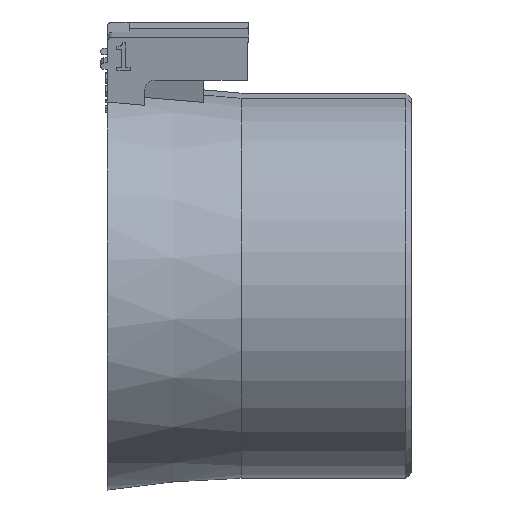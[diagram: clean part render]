
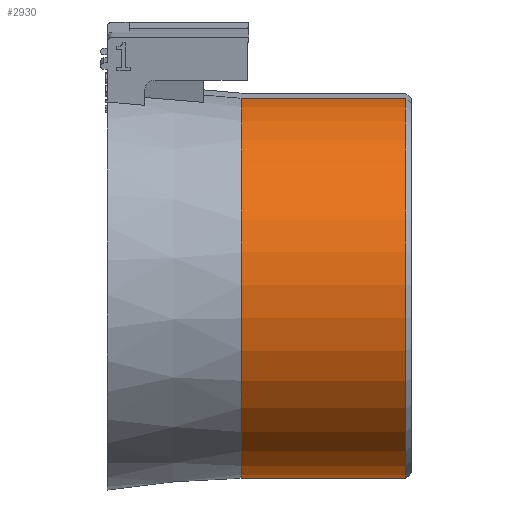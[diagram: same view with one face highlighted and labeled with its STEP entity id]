
A CAD part, front view. The second image highlights one B-rep face of the part: STEP entity #2930.
In plain terms, the highlighted cylindrical face has radius 17.5 mm (diameter 35 mm), a partial arc.
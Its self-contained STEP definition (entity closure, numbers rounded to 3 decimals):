
#49=CYLINDRICAL_SURFACE('',#3102,17.5);
#85=CIRCLE('',#3103,17.5);
#86=CIRCLE('',#3104,17.5);
#378=FACE_OUTER_BOUND('',#546,.T.);
#546=EDGE_LOOP('',(#2542,#2543,#2544,#2545));
#806=LINE('',#4965,#1088);
#825=LINE('',#5007,#1107);
#1088=VECTOR('',#3600,10.);
#1107=VECTOR('',#3629,10.);
#1454=VERTEX_POINT('',#4962);
#1455=VERTEX_POINT('',#4964);
#1472=VERTEX_POINT('',#5005);
#1473=VERTEX_POINT('',#5006);
#1832=EDGE_CURVE('',#1455,#1454,#806,.T.);
#1853=EDGE_CURVE('',#1472,#1473,#825,.T.);
#1854=EDGE_CURVE('',#1455,#1472,#85,.T.);
#1855=EDGE_CURVE('',#1473,#1454,#86,.T.);
#2542=ORIENTED_EDGE('',*,*,#1853,.F.);
#2543=ORIENTED_EDGE('',*,*,#1854,.F.);
#2544=ORIENTED_EDGE('',*,*,#1832,.T.);
#2545=ORIENTED_EDGE('',*,*,#1855,.F.);
#2930=ADVANCED_FACE('',(#378),#49,.T.);
#3102=AXIS2_PLACEMENT_3D('',#5004,#3627,#3628);
#3103=AXIS2_PLACEMENT_3D('',#5008,#3630,#3631);
#3104=AXIS2_PLACEMENT_3D('',#5009,#3632,#3633);
#3600=DIRECTION('',(-1.,0.,0.));
#3627=DIRECTION('center_axis',(-1.,0.,0.));
#3628=DIRECTION('ref_axis',(0.,-0.985,-0.174));
#3629=DIRECTION('',(-1.,0.,0.));
#3630=DIRECTION('center_axis',(1.,0.,0.));
#3631=DIRECTION('ref_axis',(0.,0.985,0.174));
#3632=DIRECTION('center_axis',(-1.,0.,0.));
#3633=DIRECTION('ref_axis',(0.,-0.985,-0.174));
#4962=CARTESIAN_POINT('',(11.43,-5.453,17.023));
#4964=CARTESIAN_POINT('',(26.5,-5.453,17.023));
#4965=CARTESIAN_POINT('',(19.215,-5.453,17.023));
#5004=CARTESIAN_POINT('Origin',(19.215,-2.414,-0.211));
#5005=CARTESIAN_POINT('',(26.5,0.315,-17.497));
#5006=CARTESIAN_POINT('',(11.43,0.315,-17.497));
#5007=CARTESIAN_POINT('',(19.215,0.315,-17.497));
#5008=CARTESIAN_POINT('Origin',(26.5,-2.414,-0.211));
#5009=CARTESIAN_POINT('Origin',(11.43,-2.414,-0.211));
